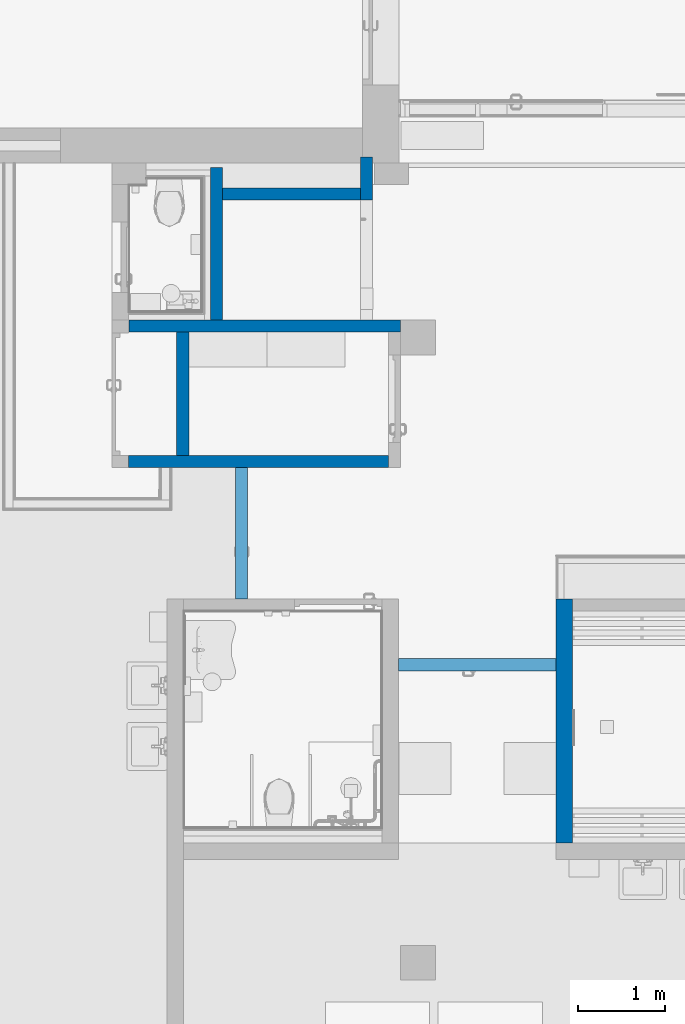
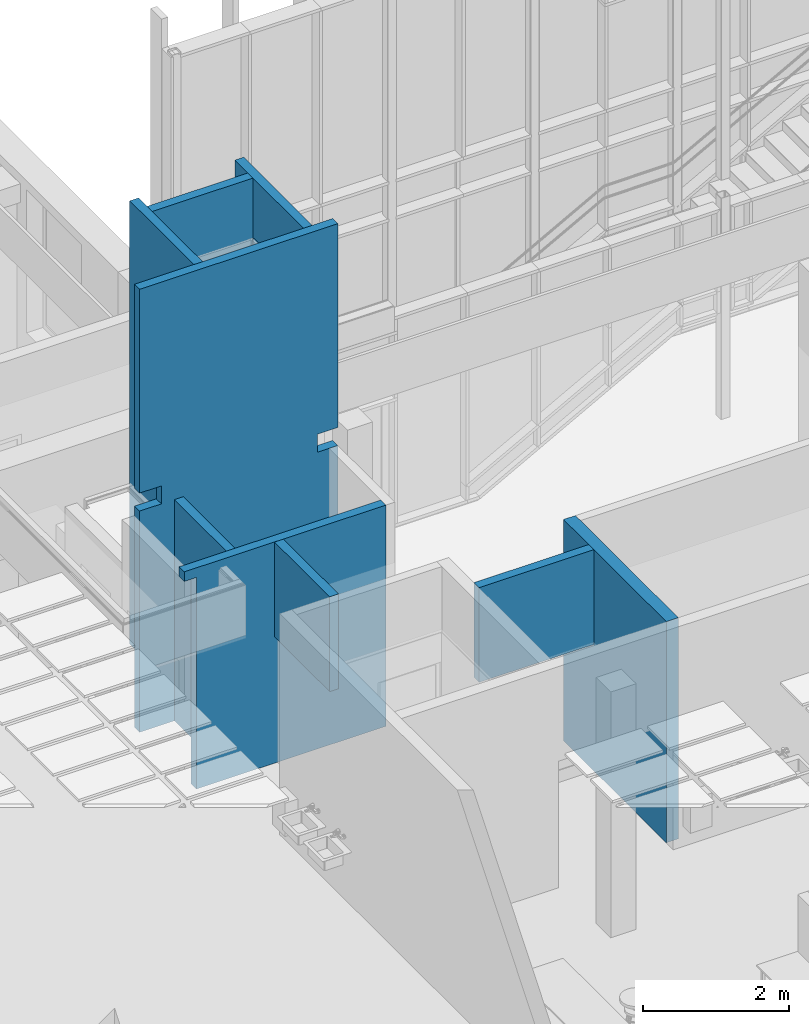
# One storey, part 125 of 301: 9 walls, 5 openings.
"""IFC2X3 building model written with IfcOpenShell, lengths in millimetres."""

from ifc_helpers import new_model, entity, si_unit, converted_unit, derived_unit, money_unit, direction, frame, origin_with_axes, place, context, subcontext, project, spatial, faceted_brep, material, type_object, element, save


model = new_model("IFC2X3")

# Units and contexts
model_context = context("Model", 3, precision=0.01, world=origin_with_axes(), true_north=direction((0.0, 1.0)))
body_context = subcontext(model_context, "Body", "Model", "MODEL_VIEW")
ifc_project = project(units=[si_unit("LENGTHUNIT", "METRE", prefix="MILLI"), si_unit("AREAUNIT", "SQUARE_METRE"), si_unit("VOLUMEUNIT", "CUBIC_METRE"), converted_unit("PLANEANGLEUNIT", "DEGREE", entity("IfcPlaneAngleMeasure", 0.0174532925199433), si_unit("PLANEANGLEUNIT", "RADIAN"), dimensions=[0, 0, 0, 0, 0, 0, 0]), money_unit("EUR"), converted_unit("TIMEUNIT", "Year", entity("IfcTimeMeasure", 31557600.0), si_unit("TIMEUNIT", "SECOND"), dimensions=[0, 0, 1, 0, 0, 0, 0]), si_unit("MASSUNIT", "GRAM", prefix="KILO"), si_unit("THERMODYNAMICTEMPERATUREUNIT", "DEGREE_CELSIUS"), si_unit("LUMINOUSINTENSITYUNIT", "LUMEN"), si_unit("ENERGYUNIT", "JOULE", prefix="MEGA"), derived_unit("THERMALCONDUCTANCEUNIT", [(si_unit("POWERUNIT", "WATT"), 1), (si_unit("LENGTHUNIT", "METRE"), -1), (si_unit("THERMODYNAMICTEMPERATUREUNIT", "KELVIN"), -1)]), derived_unit("SPECIFICHEATCAPACITYUNIT", [(si_unit("ENERGYUNIT", "JOULE"), 1), (si_unit("MASSUNIT", "GRAM", prefix="KILO"), -1), (si_unit("THERMODYNAMICTEMPERATUREUNIT", "KELVIN"), -1)]), derived_unit("MASSDENSITYUNIT", [(si_unit("MASSUNIT", "GRAM", prefix="KILO"), 1), (si_unit("VOLUMEUNIT", "CUBIC_METRE"), -1)])], contexts=[model_context])

# Site, building, storey
site_placement = place(None, frame((0.0, 0.0, 8650.0), z_axis=(0.0, 0.0, 1.0), x_axis=(1.0, 0.0, 0.0)))
site = spatial("IfcSite", under=ifc_project, at=site_placement, Name="43301:001:0844", CompositionType="ELEMENT")
building_placement = place(site_placement, origin_with_axes())
building = spatial("IfcBuilding", under=site, at=building_placement, Name="Kuressaare Ametikooli tuulikute mehaanikute õppekorpus", CompositionType="ELEMENT")
storey_placement = place(building_placement, origin_with_axes())
storey = spatial("IfcBuildingStorey", under=building, at=storey_placement, Name="1.korrus", CompositionType="ELEMENT", Elevation=0.0)

# Wall
ifc_material_1 = material(Name="Betoonõõnesplokk")
wall_type_1 = type_object("IfcWallType", Name="SS-1.2 140", PredefinedType="NOTDEFINED")
wall_1_placement = place(storey_placement, frame((101228.1615931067, 22275.06036401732, 0.0), z_axis=(0.0, 0.0, 1.0), x_axis=(0.0, 1.0, 0.0)))
element("IfcWall", 1, at=wall_1_placement, inside=storey, type_object=wall_type_1, material=ifc_material_1, Name="Sisesein", context=body_context, shape_type="Brep", body=[
    faceted_brep([(1559.0092792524, 140.0000000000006, 0.0), (1559.009279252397, 140.0000000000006, 3690.0), (1559.009279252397, 0.0, 3690.0), (1559.0092792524, 0.0, 0.0), (140.0160679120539, 140.0000000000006, 0.0), (140.0160679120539, 140.0000000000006, 3690.0), (140.0000009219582, 0.0, 3690.0), (140.0000009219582, 0.0, 0.0)], [[[0, 1, 2, 3]], [[4, 5, 1, 0]], [[5, 6, 2, 1]], [[3, 2, 6, 7]], [[4, 0, 3, 7]], [[7, 6, 5, 4]]]),
])

# Wall, opening
wall_2_placement = place(storey_placement, frame((105455.5120455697, 20074.46984143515, 0.0), z_axis=(0.0, 0.0, 1.0), x_axis=(-0.9999999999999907, -1.369512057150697e-07, 0.0)))
wall_2 = element("IfcWall", 2, at=wall_2_placement, inside=storey, type_object=wall_type_1, material=ifc_material_1, Name="Sisesein", context=body_context, shape_type="Brep", body=[
    faceted_brep([(-2.678703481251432e-06, 140.0000000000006, 2110.0), (-2.678689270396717e-06, 0.0, 2110.0), (1.124240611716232e-05, 0.0, 3690.0), (1.284928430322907e-05, 140.0000000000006, 3690.0), (1809.999997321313, 0.0, 2110.0), (1809.999997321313, 139.999999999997, 2110.0), (1810.000181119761, 0.0, 3690.0), (1810.000219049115, 140.0000000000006, 3690.0)], [[[0, 1, 2, 3]], [[4, 1, 0, 5]], [[1, 4, 6, 2]], [[3, 2, 6, 7]], [[5, 0, 3, 7]], [[4, 5, 7, 6]]]),
])
opening_1_placement = place(wall_2_placement, frame((904.9999973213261, 0.0, 0.0), z_axis=(0.0, 0.0, 1.0), x_axis=(1.0, 0.0, 0.0)))
element("IfcOpeningElement", 3, at=opening_1_placement, cuts=wall_2, Name="TKU9+9,EI30,dB", context=body_context, shape_type="Brep", body=[
    faceted_brep([(-905.0000000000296, -1.000247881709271, 2110.0), (-905.0000000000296, -1.000247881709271, 0.0), (904.9999999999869, -1.000247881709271, 0.0), (904.9999999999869, -1.000247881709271, 2110.0), (-905.0000000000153, 141.0002478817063, 2110.0), (-905.0000000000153, 141.0002478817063, 0.0), (904.9999999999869, 141.0002478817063, 0.0), (904.9999999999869, 141.0002478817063, 2110.0)], [[[0, 1, 2, 3]], [[4, 5, 1, 0]], [[5, 6, 2, 1]], [[6, 7, 3, 2]], [[7, 4, 0, 3]], [[6, 5, 4, 7]]]),
])

wall_3_placement = place(storey_placement, frame((101907.3159982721, 22274.79055666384, 0.0), z_axis=(0.0, 0.0, 1.0), x_axis=(0.0, -1.0, 0.0)))
wall_3 = element("IfcWall", 4, at=wall_3_placement, inside=storey, type_object=wall_type_1, material=ifc_material_1, Name="Sisesein", context=body_context, shape_type="Brep", body=[
    faceted_brep([(1509.999999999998, 0.0, 2110.0), (0.0, 0.0, 2110.0), (0.0, 0.0, 3690.0), (1509.996878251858, 0.0, 3690.0), (1509.996878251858, 0.0, 2690.000017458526), (0.02906728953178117, 0.0, 2690.000017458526), (0.02906728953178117, 0.0, 2640.000017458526), (1509.996878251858, 0.0, 2640.000017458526), (0.0, -140.0000000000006, 2110.0), (1509.999999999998, -140.0000000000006, 2110.0), (0.0, -140.0000000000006, 3690.0), (1509.996878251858, -140.0000000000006, 3690.0), (0.02906746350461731, -0.01620782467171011, 2690.000017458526), (0.02906746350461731, -0.01620782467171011, 2640.000017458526)], [[[0, 1, 2, 3, 4, 5, 6, 7]], [[8, 1, 0, 9]], [[1, 8, 10, 2]], [[3, 2, 10, 11]], [[9, 0, 7, 4, 3, 11]], [[12, 5, 4]], [[6, 5, 12, 13]], [[13, 7, 6]], [[8, 9, 11, 10]], [[4, 7, 13, 12]]]),
])
opening_2_placement = place(wall_3_placement, frame((754.999999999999, 0.0, 0.0), z_axis=(0.0, 0.0, 1.0), x_axis=(1.0, 0.0, 0.0)))
element("IfcOpeningElement", 5, at=opening_2_placement, cuts=wall_3, Name="TKU10+5,EI30,dB", context=body_context, shape_type="Brep", body=[
    faceted_brep([(-754.999999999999, -141.0000000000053, 2110.0), (-754.999999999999, -141.0000000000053, 0.0), (754.999999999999, -141.0000000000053, 0.0), (754.999999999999, -141.0000000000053, 2110.0), (-754.999999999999, 1.000000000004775, 2110.0), (-754.999999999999, 1.000000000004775, 0.0), (754.999999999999, 1.000000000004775, 0.0), (754.999999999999, 1.000000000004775, 2110.0)], [[[0, 1, 2, 3]], [[4, 5, 1, 0]], [[5, 6, 2, 1]], [[6, 7, 3, 2]], [[7, 4, 0, 3]], [[6, 5, 4, 7]]]),
])

# Walls
wall_4_placement = place(storey_placement, frame((100345.2808004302, 22275.16168713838, 0.0), z_axis=(0.0, 0.0, 1.0), x_axis=(0.9999999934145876, -0.0001147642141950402, 0.0)))
element("IfcWall", 6, at=wall_4_placement, inside=storey, type_object=wall_type_1, material=ifc_material_1, Name="Sisesein", context=body_context, shape_type="Brep", body=[
    faceted_brep([(0.0, 140.0000000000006, 3530.0), (0.0, 140.0000000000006, 3690.0), (3182.477456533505, 140.0000000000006, 3690.0), (3182.477456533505, 140.0000000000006, 0.0), (189.9999999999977, 140.0000000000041, 0.0), (189.9999999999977, 140.0000000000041, 3530.0), (0.0, 0.0, 3530.0), (0.0, 0.0, 3690.0), (3182.476345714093, 0.0, 3690.0), (3182.476345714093, 0.0, 0.0), (190.0000000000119, 0.0, 0.0), (190.0000000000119, 0.0, 3530.0)], [[[0, 1, 2, 3, 4, 5]], [[6, 7, 1, 0]], [[7, 8, 2, 1]], [[3, 2, 8, 9]], [[3, 9, 10, 4]], [[10, 11, 5, 4]], [[11, 6, 0, 5]], [[9, 8, 7, 6, 11, 10]]]),
])
ifc_material_2 = material(Name="Betoonplokk")
wall_type_2 = type_object("IfcWallType", Name="SS-1.1 190", PredefinedType="NOTDEFINED")
wall_5_placement = place(storey_placement, frame((105455.5119652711, 20624.83569353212, 0.0), z_axis=(0.0, 0.0, 1.0), x_axis=(1.25473415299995e-07, -0.9999999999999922, 0.0)))
element("IfcWall", 7, at=wall_5_placement, inside=storey, type_object=wall_type_2, material=ifc_material_2, Name="Sisesein", context=body_context, shape_type="Brep", body=[
    faceted_brep([(-139.9999999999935, 0.0, 0.0), (-139.9999999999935, 0.0, 3690.0), (-140.0000021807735, 189.9999999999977, 3690.0), (-140.0000021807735, 189.9999999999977, 0.0), (2670.03773883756, 0.0, 0.0), (2670.03773883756, 0.0, 3690.0), (2670.037340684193, 189.9999999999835, 3690.0), (2670.037340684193, 189.9999999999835, 0.0)], [[[0, 1, 2, 3]], [[4, 5, 1, 0]], [[5, 6, 2, 1]], [[3, 2, 6, 7]], [[3, 7, 4, 0]], [[7, 6, 5, 4]]]),
])
ifc_material_3 = material(Name="Puit - CLT")
wall_type_3 = type_object("IfcWallType", Name="SS-3 140", PredefinedType="NOTDEFINED")
wall_6_placement = place(storey_placement, frame((101615.6546914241, 23974.06964326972, -120.0000000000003), z_axis=(0.0, 0.0, 1.0), x_axis=(0.001057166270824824, 0.9999994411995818, 0.0)))
element("IfcWall", 8, at=wall_6_placement, inside=storey, type_object=wall_type_3, material=ifc_material_3, Name="Sisesein", context=body_context, shape_type="Brep", body=[
    faceted_brep([(1754.030980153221, 140.0000000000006, 120.0000000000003), (1754.030980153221, 140.0000000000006, 7509.999999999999), (1754.030980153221, 0.0, 7509.999999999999), (1754.030980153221, 0.0, 120.0000000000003), (-0.148003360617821, 140.0000000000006, 120.0000000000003), (-0.148003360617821, 139.9999999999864, 7509.999999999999), (0.0, 0.0, 7509.999999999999), (0.0, 0.0, 120.0000000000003), (0.0, 0.0, 0.0), (1380.000771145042, 0.0, 0.0), (1380.000771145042, 0.0, 120.0000000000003), (1379.999228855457, 1.45888945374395, 120.0000000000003), (1379.999228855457, 1.45888945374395, 0.0)], [[[0, 1, 2, 3]], [[4, 5, 1, 0]], [[5, 6, 2, 1]], [[3, 2, 6, 7, 8, 9, 10]], [[4, 0, 3, 10, 11, 7]], [[7, 6, 5, 4]], [[12, 8, 7, 11]], [[9, 8, 12]], [[12, 11, 10, 9]]]),
])
wall_7_placement = place(storey_placement, frame((103667.9521418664, 23974.06964326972, -50.0), z_axis=(0.0, 0.0, 1.0), x_axis=(-1.0, 0.0, 0.0)))
element("IfcWall", 9, at=wall_7_placement, inside=storey, type_object=wall_type_3, material=ifc_material_3, Name="Sisesein", context=body_context, shape_type="Brep", body=[
    faceted_brep([(3130.634557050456, 0.0, 7439.999999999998), (462.3007446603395, 0.009391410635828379, 7439.999999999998), (322.2917428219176, 0.009319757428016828, 7439.999999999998), (-4.689582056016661e-09, 0.009154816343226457, 7439.999999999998), (0.0, 0.0, 4039.999999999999), (322.2974504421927, 0.0, 4040.0), (322.2974504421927, 0.0, 3740.0), (0.0, 0.0, 3740.0), (0.0, 0.0, 50.0), (462.2974504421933, 0.0, 50.0), (2052.297450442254, 0.0, 50.0), (3130.634557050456, 0.0, 50.0), (3130.634557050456, 0.0, 3740.0), (2784.226758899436, 0.0, 3740.0), (2784.226758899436, 0.0, 4040.0), (3130.634557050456, 0.0, 4040.0), (3130.634557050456, 140.0000000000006, 7439.999999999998), (462.2916563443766, 140.0009922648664, 7439.999999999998), (322.2916563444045, 140.0009057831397, 7439.999999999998), (0.0, 140.0000000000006, 7439.999999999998), (0.0, 140.0000000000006, 4039.999999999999), (322.2974504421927, 140.0000000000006, 4040.0), (322.2974504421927, 140.0000000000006, 3740.0), (0.0, 140.0000000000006, 3740.0), (0.0, 140.0000000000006, 50.0), (3130.634557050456, 140.0000000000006, 50.0), (3130.634557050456, 140.0000000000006, 3740.0), (2784.226758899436, 140.0009922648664, 3740.0), (2784.226758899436, 140.0009922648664, 4040.0), (3130.634557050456, 140.0000000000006, 4039.999999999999)], [[[0, 1, 2, 3, 4, 5, 6, 7, 8, 9, 10, 11, 12, 13, 14, 15]], [[0, 16, 17, 1]], [[1, 17, 18, 2]], [[2, 18, 19, 3]], [[20, 4, 3, 19]], [[5, 4, 20, 21]], [[6, 5, 21, 22]], [[23, 7, 6, 22]], [[23, 24, 8, 7]], [[24, 25, 11, 10, 9, 8]], [[26, 12, 11, 25]], [[27, 13, 12, 26]], [[28, 14, 13, 27]], [[29, 15, 14, 28]], [[15, 29, 16, 0]], [[21, 20, 19, 18, 17, 16, 29, 28, 27, 26, 25, 24, 23, 22]]]),
])

# Wall, opening
wall_8_placement = place(storey_placement, frame((101617.1135816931, 25354.06964326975, -120.0000000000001), z_axis=(0.0, 0.0, 1.0), x_axis=(1.0, 0.0, 0.0)))
wall_8 = element("IfcWall", 10, at=wall_8_placement, inside=storey, type_object=wall_type_3, material=ifc_material_3, Name="Sisesein", context=body_context, shape_type="Brep", body=[
    faceted_brep([(1588.545365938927, -2.328803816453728e-08, 7509.999999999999), (0.0, 0.0, 7509.999999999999), (0.0, 0.0, 120.0000000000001), (1588.541109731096, 0.0, 120.0000000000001), (216.4576382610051, 0.0, 3770.0), (216.4576382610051, 0.0, 5970.0), (1366.457638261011, 0.0, 5970.0), (1366.457638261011, 0.0, 3770.0), (1588.54613191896, 139.9999999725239, 7509.999999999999), (0.1480033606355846, 140.0000000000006, 7509.999999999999), (0.1480033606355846, 140.0000000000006, 120.0000000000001), (1588.541109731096, 140.0000000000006, 120.0000000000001), (216.4576382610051, 140.0000000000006, 3770.0), (216.4576382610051, 140.0000000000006, 5970.0), (1366.457638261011, 140.0000000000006, 5970.0), (1366.457638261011, 140.0000000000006, 3770.0)], [[[0, 1, 2, 3], [4, 5, 6, 7]], [[0, 8, 9, 1]], [[1, 9, 10, 2]], [[11, 3, 2, 10]], [[8, 0, 3, 11]], [[12, 13, 5, 4]], [[13, 14, 6, 5]], [[14, 15, 7, 6]], [[15, 12, 4, 7]], [[9, 8, 11, 10], [12, 15, 14, 13]]]),
])
opening_3_placement = place(wall_8_placement, frame((791.4576382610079, 0.0, 3770.0), z_axis=(0.0, 0.0, 1.0), x_axis=(1.0, 0.0, 0.0)))
element("IfcOpeningElement", 11, at=opening_3_placement, cuts=wall_8, Name="ava", context=body_context, shape_type="Brep", body=[
    faceted_brep([(-575.0000000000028, 140.0000000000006, 2200.0), (575.0000000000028, 140.0000000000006, 2200.0), (575.0000000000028, 141.0000000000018, 2200.0), (-575.0000000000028, 141.0000000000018, 2200.0), (-575.0000000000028, -1.000000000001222, 2200.0), (575.0000000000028, -1.000000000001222, 2200.0), (575.0000000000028, 140.0000000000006, 0.0), (575.0000000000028, 141.0000000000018, 0.0), (-575.0000000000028, 141.0000000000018, 0.0), (-575.0000000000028, 140.0000000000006, 0.0), (-575.0000000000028, -1.000000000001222, 0.0), (575.0000000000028, -1.000000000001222, 0.0)], [[[0, 1, 2, 3]], [[1, 0, 4, 5]], [[1, 6, 7, 2]], [[7, 8, 3, 2]], [[9, 0, 3, 8]], [[0, 9, 10, 4]], [[4, 10, 11, 5]], [[6, 1, 5, 11]], [[6, 9, 8, 7]], [[9, 6, 11, 10]]]),
])

# Wall, openings
wall_9_placement = place(storey_placement, frame((103205.6546914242, 25849.58713764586, -120.0000000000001), z_axis=(0.0, 0.0, 1.0), x_axis=(0.0, -1.0, 0.0)))
wall_9 = element("IfcWall", 12, at=wall_9_placement, inside=storey, type_object=wall_type_3, material=ifc_material_3, Name="Sisesein", context=body_context, shape_type="Brep", body=[
    faceted_brep([(66.51821369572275, 0.0, 0.0), (66.51821369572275, 0.0, 120.0000000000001), (495.5174943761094, 0.0, 120.0000000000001), (495.5174943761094, 0.0, 2420.0), (1875.517494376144, 0.0, 2420.0), (1875.517494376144, 0.0, 7509.999999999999), (0.0, 0.0, 7509.999999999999), (0.0, 0.0, 0.0), (1765.517494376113, 0.0, 4220.0), (495.5174943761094, 0.0, 4220.0), (495.5174943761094, 0.0, 6520.0), (1765.517494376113, 0.0, 6520.0), (66.51821369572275, 140.0000000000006, 0.0), (66.51821369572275, 140.0000000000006, 120.0000000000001), (495.5174943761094, 140.0000000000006, 120.0000000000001), (495.5174943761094, 140.0000000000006, 2420.0), (1875.517494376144, 140.0000000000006, 2420.0), (1875.517494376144, 140.0000000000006, 7509.999999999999), (0.0, 140.0000000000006, 7509.999999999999), (0.0, 140.0000000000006, 0.0), (1765.517494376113, 140.0000000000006, 4220.0), (495.5174943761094, 140.0000000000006, 4220.0), (495.5174943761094, 140.0000000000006, 6520.0), (1765.517494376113, 140.0000000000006, 6520.0)], [[[0, 1, 2, 3, 4, 5, 6, 7], [8, 9, 10, 11]], [[1, 0, 12, 13]], [[2, 1, 13, 14]], [[15, 3, 2, 14]], [[16, 4, 3, 15]], [[16, 17, 5, 4]], [[5, 17, 18, 6]], [[19, 7, 6, 18]], [[0, 7, 19, 12]], [[20, 21, 9, 8]], [[21, 22, 10, 9]], [[22, 23, 11, 10]], [[23, 20, 8, 11]], [[18, 17, 16, 15, 14, 13, 12, 19], [20, 23, 22, 21]]]),
])
opening_4_placement = place(wall_9_placement, frame((1130.517494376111, 0.0, 4220.000000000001), z_axis=(0.0, 0.0, 1.0), x_axis=(1.0, 0.0, 0.0)))
element("IfcOpeningElement", 13, at=opening_4_placement, cuts=wall_9, Name="ava", context=body_context, shape_type="Brep", body=[
    faceted_brep([(-635.0000000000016, 140.0000000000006, 0.0), (-635.0000000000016, 140.0000000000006, 2300.0), (-635.0000000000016, 141.0000000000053, 2300.0), (-635.0000000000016, 141.0000000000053, 0.0), (-635.0000000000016, -1.000000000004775, 0.0), (-635.0000000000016, -1.000000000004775, 2300.0), (635.0000000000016, 140.0000000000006, 2300.0), (635.0000000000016, 141.0000000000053, 2300.0), (635.0000000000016, 141.0000000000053, 0.0), (635.0000000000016, 140.0000000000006, 0.0), (635.0000000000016, -1.000000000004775, 0.0), (635.0000000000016, -1.000000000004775, 2300.0)], [[[0, 1, 2, 3]], [[1, 0, 4, 5]], [[1, 6, 7, 2]], [[8, 3, 2, 7]], [[9, 0, 3, 8]], [[0, 9, 10, 4]], [[5, 4, 10, 11]], [[6, 1, 5, 11]], [[6, 9, 8, 7]], [[9, 6, 11, 10]]]),
])
opening_5_placement = place(wall_9_placement, frame((1185.517494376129, 0.0, 120.000000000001), z_axis=(0.0, 0.0, 1.0), x_axis=(1.0, 0.0, 0.0)))
element("IfcOpeningElement", 14, at=opening_5_placement, cuts=wall_9, Name="ava", context=body_context, shape_type="Brep", body=[
    faceted_brep([(-690.0000000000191, 140.0000000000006, 0.0), (-690.0000000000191, 140.0000000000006, 2300.0), (-690.0000000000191, 141.0000000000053, 2300.0), (-690.0000000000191, 141.0000000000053, 0.0), (-690.0000000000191, -1.000000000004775, 0.0), (-690.0000000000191, -1.000000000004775, 2300.0), (690.0000000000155, 140.0000000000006, 2300.0), (690.0000000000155, 141.0000000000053, 2300.0), (690.0000000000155, 141.0000000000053, 0.0), (690.0000000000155, 140.0000000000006, 0.0), (690.0000000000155, -1.000000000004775, 0.0), (690.0000000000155, -1.000000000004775, 2300.0)], [[[0, 1, 2, 3]], [[1, 0, 4, 5]], [[1, 6, 7, 2]], [[8, 3, 2, 7]], [[9, 0, 3, 8]], [[0, 9, 10, 4]], [[5, 4, 10, 11]], [[6, 1, 5, 11]], [[6, 9, 8, 7]], [[9, 6, 11, 10]]]),
])

save(model, "model.ifc")
